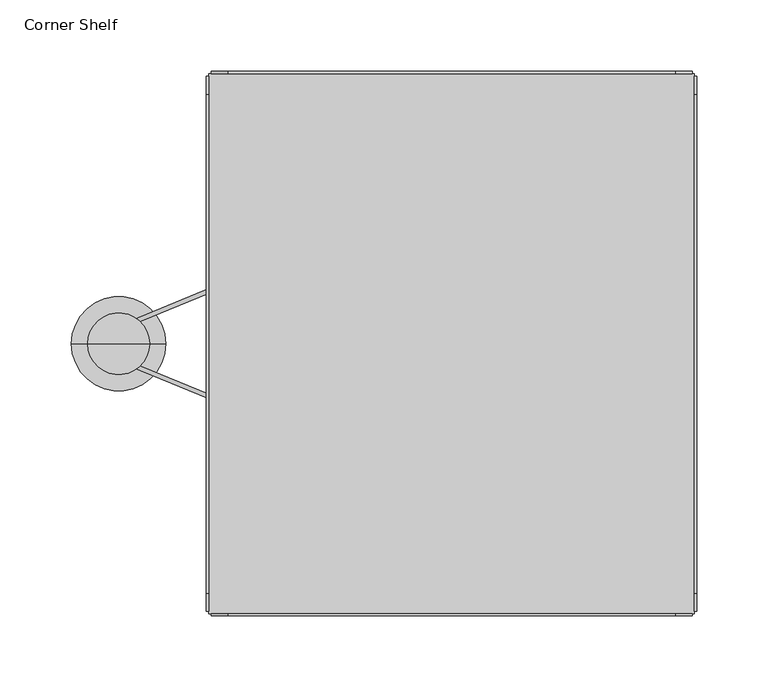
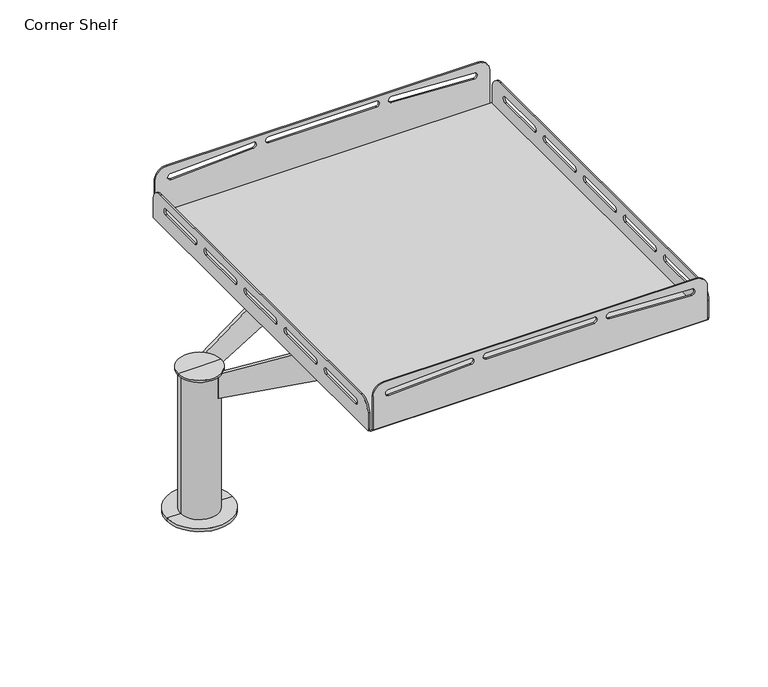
"""IFC4 building model written with IfcOpenShell, lengths in millimetres: furniture geometry, HermanMiller_Carts_CT761_CornerShelf : Corner Shelf."""

from ifc_helpers import new_model, si_unit, point, frame, frame_2d, origin, place, context, project, spatial, polyline, circle_curve, trimmed, segment, composite_curve, outline, extrude, faceted_brep, source, transform, mapped, element, save
from ifc_brep_helpers import plane_surface, cylinder_surface, advanced_brep


def corner_shelf_d9e9a92b(model_context):
    return source(origin(), model_context, "Body", "SolidModel", [
        extrude(outline(composite_curve([segment(polyline([(1072.0740967, 168.3423498), (1108.0837593, 168.3423498)]), True, "CONTINUOUS"), segment(trimmed(circle_curve(frame_2d((1107.225198, 156.5625963)), 11.811), [point((1108.0837593, 168.3423498))], [point((1119.0361567, 156.5938427))], False, "CARTESIAN"), True, "CONTINUOUS"), segment(trimmed(circle_curve(frame_2d((-1109.1384254, 0.0985948)), 2233.6635223), [point((1119.0361567, 156.5938427))], [point((1119.0361567, -156.3966531))], False, "CARTESIAN"), True, "CONTINUOUS"), segment(trimmed(circle_curve(frame_2d((1107.225198, -156.4278996)), 11.811), [point((1119.0361567, -156.3966531))], [point((1108.0903276, -168.2071725))], False, "CARTESIAN"), True, "CONTINUOUS"), segment(polyline([(1108.0903276, -168.2071725), (1072.0740967, -168.2071725), (1072.0740967, 168.3423498)]), True, "CONTINUOUS")], self_intersect=False), holes=[composite_curve([segment(trimmed(circle_curve(frame_2d((1106.5796481, -152.3470433)), 3.1749951), [point((1103.4049604, -152.3028574))], [point((1109.7506509, -152.5062138))], True, "CARTESIAN"), True, "CONTINUOUS"), segment(trimmed(circle_curve(frame_2d((-1294.2405065, 9.5287707)), 2409.4457498), [point((1109.7506509, -152.5062138))], [point((1113.8929104, -69.9839177))], True, "CARTESIAN"), True, "CONTINUOUS"), segment(trimmed(circle_curve(frame_2d((1110.7245321, -69.7792758)), 3.1749802), [point((1113.8929104, -69.9839177))], [point((1107.5499993, -69.7259761))], True, "CARTESIAN"), True, "CONTINUOUS"), segment(trimmed(circle_curve(frame_2d((-1370.7708389, 13.2836342)), 2479.7106227), [point((1107.5499993, -69.7259761))], [point((1103.4049604, -152.3028574))], False, "CARTESIAN"), True, "CONTINUOUS")], self_intersect=False), composite_curve([segment(trimmed(circle_curve(frame_2d((1111.1697772, -53.909379)), 3.174987), [point((1107.9974854, -53.7785842))], [point((1114.3387407, -54.1048597))], True, "CARTESIAN"), True, "CONTINUOUS"), segment(trimmed(circle_curve(frame_2d((-1381.1041872, 0.0677357)), 2496.0308645), [point((1114.3387407, -54.1048597))], [point((1114.3387407, 54.2403312))], True, "CARTESIAN"), True, "CONTINUOUS"), segment(trimmed(circle_curve(frame_2d((1111.1697807, 54.0445715)), 3.1750007), [point((1114.3387407, 54.2403312))], [point((1107.9974854, 54.1756113))], True, "CARTESIAN"), True, "CONTINUOUS"), segment(trimmed(circle_curve(frame_2d((-1403.286981, 0.1985136)), 2511.8644863), [point((1107.9974854, 54.1756113))], [point((1107.9974854, -53.7785842))], False, "CARTESIAN"), True, "CONTINUOUS")], self_intersect=False), composite_curve([segment(trimmed(circle_curve(frame_2d((1110.7245314, 69.9144612)), 3.1749798), [point((1107.5499955, 69.8613764))], [point((1113.8929104, 70.1190858))], True, "CARTESIAN"), True, "CONTINUOUS"), segment(trimmed(circle_curve(frame_2d((-1349.5141451, -12.1680421)), 2464.7810233), [point((1113.8929104, 70.1190858))], [point((1109.7506516, 152.6413995))], True, "CARTESIAN"), True, "CONTINUOUS"), segment(trimmed(circle_curve(frame_2d((1106.5796485, 152.482229)), 3.1749955), [point((1109.7506516, 152.6413995))], [point((1103.4049604, 152.4380437))], True, "CARTESIAN"), True, "CONTINUOUS"), segment(trimmed(circle_curve(frame_2d((-1365.7475039, -12.8963965)), 2474.6816703), [point((1103.4049604, 152.4380437))], [point((1107.5499955, 69.8613764))], False, "CARTESIAN"), True, "CONTINUOUS")], self_intersect=False)]), frame((0.0, 188.9759651, 0.0), z_axis=(0.0, 1.0, 0.0), x_axis=(0.0, 0.0, 1.0)), (0.0, 0.0, 1.0), 1.5240349),
        extrude(outline(composite_curve([segment(polyline([(1072.0740967, 168.3423498), (1108.0837593, 168.3423498)]), True, "CONTINUOUS"), segment(trimmed(circle_curve(frame_2d((1107.225198, 156.5625963)), 11.811), [point((1108.0837593, 168.3423498))], [point((1119.0361567, 156.5313498))], False, "CARTESIAN"), True, "CONTINUOUS"), segment(trimmed(circle_curve(frame_2d((-1108.247735, 0.0673483)), 2232.7728316), [point((1119.0361567, 156.5313498))], [point((1119.0361567, -156.3966531))], False, "CARTESIAN"), True, "CONTINUOUS"), segment(trimmed(circle_curve(frame_2d((1107.225198, -156.4278996)), 11.811), [point((1119.0361567, -156.3966531))], [point((1108.0903276, -168.2071725))], False, "CARTESIAN"), True, "CONTINUOUS"), segment(polyline([(1108.0903276, -168.2071725), (1072.0740967, -168.2071725), (1072.0740967, 168.3423498)]), True, "CONTINUOUS")], self_intersect=False), holes=[composite_curve([segment(trimmed(circle_curve(frame_2d((1106.5796481, -152.3470433)), 3.1749951), [point((1103.4049604, -152.3028574))], [point((1109.7506509, -152.5062138))], True, "CARTESIAN"), True, "CONTINUOUS"), segment(trimmed(circle_curve(frame_2d((-1294.2405065, 9.5287707)), 2409.4457498), [point((1109.7506509, -152.5062138))], [point((1113.8929104, -69.9839177))], True, "CARTESIAN"), True, "CONTINUOUS"), segment(trimmed(circle_curve(frame_2d((1110.7245321, -69.7792758)), 3.1749802), [point((1113.8929104, -69.9839177))], [point((1107.5499993, -69.7259761))], True, "CARTESIAN"), True, "CONTINUOUS"), segment(trimmed(circle_curve(frame_2d((-1370.7708389, 13.2836342)), 2479.7106227), [point((1107.5499993, -69.7259761))], [point((1103.4049604, -152.3028574))], False, "CARTESIAN"), True, "CONTINUOUS")], self_intersect=False), composite_curve([segment(trimmed(circle_curve(frame_2d((1111.1697772, -53.909379)), 3.174987), [point((1107.9974854, -53.7785842))], [point((1114.3387407, -54.1048597))], True, "CARTESIAN"), True, "CONTINUOUS"), segment(trimmed(circle_curve(frame_2d((-1381.1041872, 0.0677357)), 2496.0308645), [point((1114.3387407, -54.1048597))], [point((1114.3387407, 54.2403312))], True, "CARTESIAN"), True, "CONTINUOUS"), segment(trimmed(circle_curve(frame_2d((1111.1697807, 54.0445715)), 3.1750007), [point((1114.3387407, 54.2403312))], [point((1107.9974854, 54.1756113))], True, "CARTESIAN"), True, "CONTINUOUS"), segment(trimmed(circle_curve(frame_2d((-1403.286981, 0.1985136)), 2511.8644863), [point((1107.9974854, 54.1756113))], [point((1107.9974854, -53.7785842))], False, "CARTESIAN"), True, "CONTINUOUS")], self_intersect=False), composite_curve([segment(trimmed(circle_curve(frame_2d((1110.7245314, 69.9144612)), 3.1749798), [point((1107.5499955, 69.8613764))], [point((1113.8929104, 70.1190858))], True, "CARTESIAN"), True, "CONTINUOUS"), segment(trimmed(circle_curve(frame_2d((-1349.5141451, -12.1680421)), 2464.7810233), [point((1113.8929104, 70.1190858))], [point((1109.7506516, 152.6413995))], True, "CARTESIAN"), True, "CONTINUOUS"), segment(trimmed(circle_curve(frame_2d((1106.5796485, 152.482229)), 3.1749955), [point((1109.7506516, 152.6413995))], [point((1103.4049604, 152.4380437))], True, "CARTESIAN"), True, "CONTINUOUS"), segment(trimmed(circle_curve(frame_2d((-1365.7475039, -12.8963965)), 2474.6816703), [point((1103.4049604, 152.4380437))], [point((1107.5499955, 69.8613764))], False, "CARTESIAN"), True, "CONTINUOUS")], self_intersect=False)]), frame((0.0, -190.5, 0.0), z_axis=(0.0, 1.0, 0.0), x_axis=(0.0, 0.0, 1.0)), (0.0, 0.0, 1.0), 1.5239985),
        faceted_brep([(-117.829199, 56.7055155, 1070.5500618), (-117.829199, 60.0022412, 1070.5500618), (-223.299832, 16.5328753, 1045.150086), (-223.299832, 13.2361496, 1045.150086), (21.8705774, 114.2823075, 1070.5500618), (21.8705774, 117.5790331, 1070.5500618), (21.8705774, 114.2823075, 1053.1272881), (21.8705774, 117.5790331, 1053.1272881), (-223.299832, 13.2361496, 1019.7501102), (-223.299832, 16.5328753, 1019.7501102)], [[[0, 1, 2, 3]], [[1, 0, 4, 5]], [[5, 4, 6, 7]], [[7, 6, 8, 9]], [[9, 8, 3, 2]], [[2, 1, 5, 7, 9]], [[0, 3, 8, 6, 4]]]),
        faceted_brep([(-117.829199, -59.8727428, 1070.5500618), (-117.829199, -56.5766702, 1070.5500618), (-223.299832, -13.1666398, 1045.150086), (-223.299832, -16.4627124, 1045.150086), (21.8705774, -117.3709426, 1070.5500618), (21.8705774, -114.07487, 1070.5500618), (21.8705774, -117.3709426, 1053.1272881), (21.8705774, -114.07487, 1053.1272881), (-223.299832, -16.4627124, 1019.7501102), (-223.299832, -13.1666398, 1019.7501102)], [[[0, 1, 2, 3]], [[1, 0, 4, 5]], [[5, 4, 6, 7]], [[7, 6, 8, 9]], [[9, 8, 3, 2]], [[0, 3, 8, 6, 4]], [[2, 1, 5, 7, 9]]]),
        advanced_brep(
        [(-232.8248365, 0.0, 1047.1820841), (-211.2348344, 0.0, 1047.1820841), (-254.4148386, 0.0, 1047.1820841), (-211.2348344, 0.0, 1045.150086), (-254.4148386, 0.0, 1045.150086), (-213.774832, 0.0, 1045.150086), (-251.8748411, 0.0, 1045.150086), (-213.774832, 0.0, 897.322118), (-251.8748411, 0.0, 897.322118), (-199.8048362, 0.0, 897.322118), (-265.8448368, 0.0, 897.322118), (-199.8048362, 0.0, 894.1470938), (-265.8448368, 0.0, 894.1470938), (-232.8248365, 0.0, 894.1470938)],
        [
            (0, 1),
            (1, 2, circle_curve(frame((-232.8248365, 0.0, 1047.1820841), z_axis=(0.0, 0.0, 1.0), x_axis=(1.0, 0.0, 0.0)), 21.5900021)),
            (2, 0),
            (2, 1, circle_curve(frame((-232.8248365, 0.0, 1047.1820841), z_axis=(0.0, 0.0, 1.0), x_axis=(1.0, 0.0, 0.0)), 21.5900021)),
            (1, 3),
            (3, 4, circle_curve(frame((-232.8248365, 0.0, 1045.150086), z_axis=(0.0, 0.0, 1.0), x_axis=(1.0, 0.0, 0.0)), 21.5900021)),
            (4, 2),
            (4, 3, circle_curve(frame((-232.8248365, 0.0, 1045.150086), z_axis=(0.0, 0.0, 1.0), x_axis=(1.0, 0.0, 0.0)), 21.5900021)),
            (3, 5),
            (5, 6, circle_curve(frame((-232.8248365, 0.0, 1045.150086), z_axis=(0.0, 0.0, 1.0), x_axis=(1.0, 0.0, 0.0)), 19.0500045)),
            (6, 4),
            (6, 5, circle_curve(frame((-232.8248365, 0.0, 1045.150086), z_axis=(0.0, 0.0, 1.0), x_axis=(1.0, 0.0, 0.0)), 19.0500045)),
            (5, 7),
            (7, 8, circle_curve(frame((-232.8248365, 0.0, 897.322118), z_axis=(0.0, 0.0, 1.0), x_axis=(1.0, 0.0, 0.0)), 19.0500045)),
            (8, 6),
            (8, 7, circle_curve(frame((-232.8248365, 0.0, 897.322118), z_axis=(0.0, 0.0, 1.0), x_axis=(1.0, 0.0, 0.0)), 19.0500045)),
            (7, 9),
            (9, 10, circle_curve(frame((-232.8248365, 0.0, 897.322118), z_axis=(0.0, 0.0, 1.0), x_axis=(1.0, 0.0, 0.0)), 33.0200003)),
            (10, 8),
            (10, 9, circle_curve(frame((-232.8248365, 0.0, 897.322118), z_axis=(0.0, 0.0, 1.0), x_axis=(1.0, 0.0, 0.0)), 33.0200003)),
            (9, 11),
            (11, 12, circle_curve(frame((-232.8248365, 0.0, 894.1470938), z_axis=(0.0, 0.0, 1.0), x_axis=(1.0, 0.0, 0.0)), 33.0200003)),
            (12, 10),
            (12, 11, circle_curve(frame((-232.8248365, 0.0, 894.1470938), z_axis=(0.0, 0.0, 1.0), x_axis=(1.0, 0.0, 0.0)), 33.0200003)),
            (11, 13),
            (13, 12),
        ],
        [
            plane_surface(frame((-232.8248365, 0.0, 1047.1820841), z_axis=(0.0, 0.0, 1.0), x_axis=(1.0, 0.0, 0.0))),
            cylinder_surface(frame((-232.8248365, 0.0, 894.1470938), z_axis=(0.0, 0.0, 1.0), x_axis=(1.0, 0.0, 0.0)), 21.5900021),
            plane_surface(frame((-232.8248365, 0.0, 1045.150086), z_axis=(0.0, 0.0, -1.0), x_axis=(1.0, 0.0, 0.0))),
            cylinder_surface(frame((-232.8248365, 0.0, 894.1470938), z_axis=(0.0, 0.0, 1.0), x_axis=(1.0, 0.0, 0.0)), 19.0500045),
            plane_surface(frame((-232.8248365, 0.0, 897.322118), z_axis=(0.0, 0.0, 1.0), x_axis=(1.0, 0.0, 0.0))),
            cylinder_surface(frame((-232.8248365, 0.0, 894.1470938), z_axis=(0.0, 0.0, 1.0), x_axis=(1.0, 0.0, 0.0)), 33.0200003),
            plane_surface(frame((-232.8248365, 0.0, 894.1470938), z_axis=(0.0, 0.0, -1.0), x_axis=(1.0, 0.0, 0.0))),
        ],
        [
            (0, [[1, 2, 3]]),
            (0, [[-3, 4, -1]]),
            (1, [[-2, 5, 6, 7]]),
            (1, [[-4, -7, 8, -5]]),
            (2, [[-6, 9, 10, 11]]),
            (2, [[-8, -11, 12, -9]]),
            (3, [[-10, 13, 14, 15]]),
            (3, [[-12, -15, 16, -13]]),
            (4, [[-14, 17, 18, 19]]),
            (4, [[-16, -19, 20, -17]]),
            (5, [[-18, 21, 22, 23]]),
            (5, [[-20, -23, 24, -21]]),
            (6, [[-22, 25, 26]]),
            (6, [[-24, -26, -25]]),
        ],
    ),
        extrude(outline(polyline([(169.9933498, 188.9759651), (169.9933498, -188.9760015), (-169.8581725, -188.9760015), (-169.8581725, 188.9759651), (169.9933498, 188.9759651)])), frame((0.0, 0.0, 1070.5500618), z_axis=(0.0, 0.0, 1.0), x_axis=(1.0, 0.0, 0.0)), (0.0, 0.0, 1.0), 1.5240349),
        extrude(outline(composite_curve([segment(polyline([(-187.3250121, 1070.5500618), (-187.3250121, 1089.6000618)]), True, "CONTINUOUS"), segment(trimmed(circle_curve(frame_2d((-174.6249879, 1089.6000618)), 12.7000242), [point((-187.3250121, 1089.6000618))], [point((-174.6249879, 1102.300086))], False, "CARTESIAN"), True, "CONTINUOUS"), segment(polyline([(-174.6249879, 1102.300086), (174.6249697, 1102.300086)]), True, "CONTINUOUS"), segment(trimmed(circle_curve(frame_2d((174.6249697, 1089.6000618)), 12.7000242), [point((174.6249697, 1102.300086))], [point((187.3249939, 1089.6000618))], False, "CARTESIAN"), True, "CONTINUOUS"), segment(polyline([(187.3249939, 1089.6000618), (187.3249939, 1070.5500618), (-187.3250121, 1070.5500618)]), True, "CONTINUOUS")], self_intersect=False), holes=[composite_curve([segment(trimmed(circle_curve(frame_2d((165.0999697, 1089.6000981)), 3.1749879), [point((165.0999697, 1086.4251102))], [point((165.0999697, 1092.775086))], True, "CARTESIAN"), True, "CONTINUOUS"), segment(polyline([(165.0999697, 1092.775086), (114.2999818, 1092.775086)]), True, "CONTINUOUS"), segment(trimmed(circle_curve(frame_2d((114.2999818, 1089.6000981)), 3.1749879), [point((114.2999818, 1092.775086))], [point((114.2999818, 1086.4251102))], True, "CARTESIAN"), True, "CONTINUOUS"), segment(polyline([(114.2999818, 1086.4251102), (165.0999697, 1086.4251102)]), True, "CONTINUOUS")], self_intersect=False), composite_curve([segment(trimmed(circle_curve(frame_2d((44.4499939, 1089.6000981)), 3.1749879), [point((44.4499939, 1092.775086))], [point((44.4499939, 1086.4251102))], True, "CARTESIAN"), True, "CONTINUOUS"), segment(polyline([(44.4499939, 1086.4251102), (95.2499818, 1086.4251102)]), True, "CONTINUOUS"), segment(trimmed(circle_curve(frame_2d((95.2499818, 1089.6000981)), 3.1749879), [point((95.2499818, 1086.4251102))], [point((95.2499818, 1092.775086))], True, "CARTESIAN"), True, "CONTINUOUS"), segment(polyline([(95.2499818, 1092.775086), (44.4499939, 1092.775086)]), True, "CONTINUOUS")], self_intersect=False), composite_curve([segment(trimmed(circle_curve(frame_2d((25.3999939, 1089.6000981)), 3.1749879), [point((25.3999939, 1086.4251102))], [point((25.3999939, 1092.775086))], True, "CARTESIAN"), True, "CONTINUOUS"), segment(polyline([(25.3999939, 1092.775086), (-25.3999939, 1092.775086)]), True, "CONTINUOUS"), segment(trimmed(circle_curve(frame_2d((-25.3999939, 1089.6000981)), 3.1749879), [point((-25.3999939, 1092.775086))], [point((-25.3999939, 1086.4251102))], True, "CARTESIAN"), True, "CONTINUOUS"), segment(polyline([(-25.3999939, 1086.4251102), (25.3999939, 1086.4251102)]), True, "CONTINUOUS")], self_intersect=False), composite_curve([segment(trimmed(circle_curve(frame_2d((-95.2500182, 1089.6000981)), 3.1749879), [point((-95.2500182, 1092.775086))], [point((-95.2500182, 1086.4251102))], True, "CARTESIAN"), True, "CONTINUOUS"), segment(polyline([(-95.2500182, 1086.4251102), (-44.4499939, 1086.4251102)]), True, "CONTINUOUS"), segment(trimmed(circle_curve(frame_2d((-44.4499939, 1089.6000981)), 3.1749879), [point((-44.4499939, 1086.4251102))], [point((-44.4499939, 1092.775086))], True, "CARTESIAN"), True, "CONTINUOUS"), segment(polyline([(-44.4499939, 1092.775086), (-95.2500182, 1092.775086)]), True, "CONTINUOUS")], self_intersect=False), composite_curve([segment(trimmed(circle_curve(frame_2d((-114.3000182, 1089.6000981)), 3.1749879), [point((-114.3000182, 1086.4251102))], [point((-114.3000182, 1092.775086))], True, "CARTESIAN"), True, "CONTINUOUS"), segment(polyline([(-114.3000182, 1092.775086), (-165.1000061, 1092.775086)]), True, "CONTINUOUS"), segment(trimmed(circle_curve(frame_2d((-165.1000061, 1089.6000981)), 3.1749879), [point((-165.1000061, 1092.775086))], [point((-165.1000061, 1086.4251102))], True, "CARTESIAN"), True, "CONTINUOUS"), segment(polyline([(-165.1000061, 1086.4251102), (-114.3000182, 1086.4251102)]), True, "CONTINUOUS")], self_intersect=False)]), frame((169.9933498, 0.0, 0.0), z_axis=(1.0, 0.0, 0.0), x_axis=(0.0, 1.0, 0.0)), (0.0, 0.0, 1.0), 1.5239985),
        extrude(outline(composite_curve([segment(polyline([(-187.3250121, 1070.5500618), (-187.3250121, 1089.6000618)]), True, "CONTINUOUS"), segment(trimmed(circle_curve(frame_2d((-174.6249879, 1089.6000618)), 12.7000242), [point((-187.3250121, 1089.6000618))], [point((-174.6249879, 1102.300086))], False, "CARTESIAN"), True, "CONTINUOUS"), segment(polyline([(-174.6249879, 1102.300086), (174.6249697, 1102.300086)]), True, "CONTINUOUS"), segment(trimmed(circle_curve(frame_2d((174.6249697, 1089.6000618)), 12.7000242), [point((174.6249697, 1102.300086))], [point((187.3249939, 1089.6000618))], False, "CARTESIAN"), True, "CONTINUOUS"), segment(polyline([(187.3249939, 1089.6000618), (187.3249939, 1070.5500618), (-187.3250121, 1070.5500618)]), True, "CONTINUOUS")], self_intersect=False), holes=[composite_curve([segment(trimmed(circle_curve(frame_2d((165.0999697, 1089.6000981)), 3.1749879), [point((165.0999697, 1086.4251102))], [point((165.0999697, 1092.775086))], True, "CARTESIAN"), True, "CONTINUOUS"), segment(polyline([(165.0999697, 1092.775086), (114.2999818, 1092.775086)]), True, "CONTINUOUS"), segment(trimmed(circle_curve(frame_2d((114.2999818, 1089.6000981)), 3.1749879), [point((114.2999818, 1092.775086))], [point((114.2999818, 1086.4251102))], True, "CARTESIAN"), True, "CONTINUOUS"), segment(polyline([(114.2999818, 1086.4251102), (165.0999697, 1086.4251102)]), True, "CONTINUOUS")], self_intersect=False), composite_curve([segment(trimmed(circle_curve(frame_2d((44.4499939, 1089.6000981)), 3.1749879), [point((44.4499939, 1092.775086))], [point((44.4499939, 1086.4251102))], True, "CARTESIAN"), True, "CONTINUOUS"), segment(polyline([(44.4499939, 1086.4251102), (95.2499818, 1086.4251102)]), True, "CONTINUOUS"), segment(trimmed(circle_curve(frame_2d((95.2499818, 1089.6000981)), 3.1749879), [point((95.2499818, 1086.4251102))], [point((95.2499818, 1092.775086))], True, "CARTESIAN"), True, "CONTINUOUS"), segment(polyline([(95.2499818, 1092.775086), (44.4499939, 1092.775086)]), True, "CONTINUOUS")], self_intersect=False), composite_curve([segment(trimmed(circle_curve(frame_2d((25.3999939, 1089.6000981)), 3.1749879), [point((25.3999939, 1086.4251102))], [point((25.3999939, 1092.775086))], True, "CARTESIAN"), True, "CONTINUOUS"), segment(polyline([(25.3999939, 1092.775086), (-25.3999939, 1092.775086)]), True, "CONTINUOUS"), segment(trimmed(circle_curve(frame_2d((-25.3999939, 1089.6000981)), 3.1749879), [point((-25.3999939, 1092.775086))], [point((-25.3999939, 1086.4251102))], True, "CARTESIAN"), True, "CONTINUOUS"), segment(polyline([(-25.3999939, 1086.4251102), (25.3999939, 1086.4251102)]), True, "CONTINUOUS")], self_intersect=False), composite_curve([segment(trimmed(circle_curve(frame_2d((-95.2500182, 1089.6000981)), 3.1749879), [point((-95.2500182, 1092.775086))], [point((-95.2500182, 1086.4251102))], True, "CARTESIAN"), True, "CONTINUOUS"), segment(polyline([(-95.2500182, 1086.4251102), (-44.4499939, 1086.4251102)]), True, "CONTINUOUS"), segment(trimmed(circle_curve(frame_2d((-44.4499939, 1089.6000981)), 3.1749879), [point((-44.4499939, 1086.4251102))], [point((-44.4499939, 1092.775086))], True, "CARTESIAN"), True, "CONTINUOUS"), segment(polyline([(-44.4499939, 1092.775086), (-95.2500182, 1092.775086)]), True, "CONTINUOUS")], self_intersect=False), composite_curve([segment(trimmed(circle_curve(frame_2d((-114.3000182, 1089.6000981)), 3.1749879), [point((-114.3000182, 1086.4251102))], [point((-114.3000182, 1092.775086))], True, "CARTESIAN"), True, "CONTINUOUS"), segment(polyline([(-114.3000182, 1092.775086), (-165.1000061, 1092.775086)]), True, "CONTINUOUS"), segment(trimmed(circle_curve(frame_2d((-165.1000061, 1089.6000981)), 3.1749879), [point((-165.1000061, 1092.775086))], [point((-165.1000061, 1086.4251102))], True, "CARTESIAN"), True, "CONTINUOUS"), segment(polyline([(-165.1000061, 1086.4251102), (-114.3000182, 1086.4251102)]), True, "CONTINUOUS")], self_intersect=False)]), frame((-171.3826517, 0.0, 0.0), z_axis=(1.0, 0.0, 0.0), x_axis=(0.0, 1.0, 0.0)), (0.0, 0.0, 1.0), 1.5244791),
    ])


if __name__ == "__main__":
    model = new_model("IFC4")
    model_context = context("Model", 3, world=origin())
    ifc_project = project(units=[si_unit("LENGTHUNIT", "METRE", prefix="MILLI")], contexts=[model_context])
    site = spatial("IfcSite", under=ifc_project)
    building = spatial("IfcBuilding", under=site)
    placement = place(None, origin())
    corner_shelf_shape = corner_shelf_d9e9a92b(model_context)
    element("IfcFurniture", 1, ObjectType="HermanMiller_Carts_CT761_CornerShelf : Corner Shelf", at=placement, inside=building, context=model_context, shape_type="MappedRepresentation", body=[
        mapped(corner_shelf_shape, transform((0.0, 0.0, 0.0), x_axis=(1.0, 0.0, 0.0), y_axis=(0.0, 1.0, 0.0), z_axis=(0.0, 0.0, 1.0))),
    ])
    save(model, "model.ifc")
